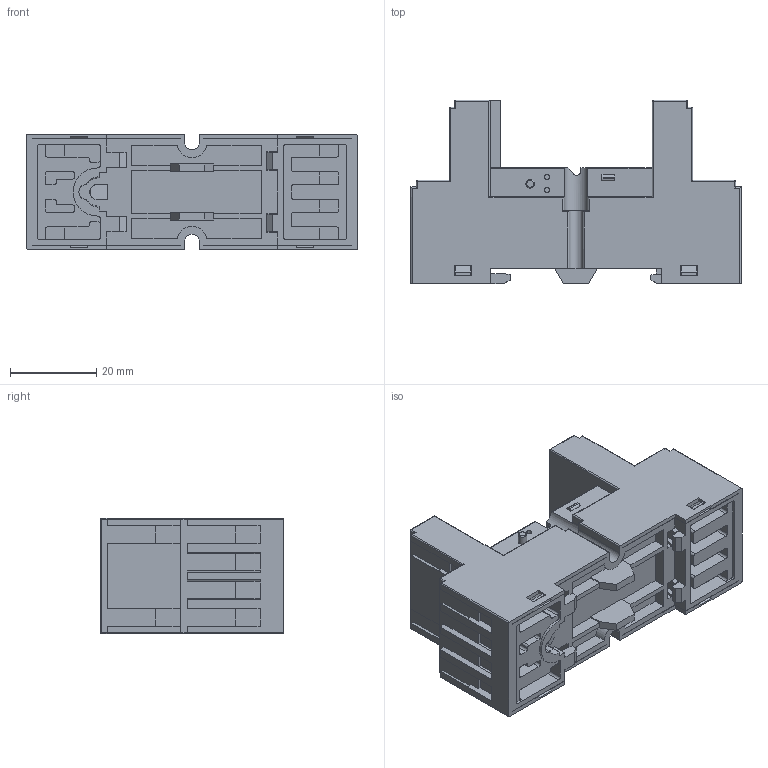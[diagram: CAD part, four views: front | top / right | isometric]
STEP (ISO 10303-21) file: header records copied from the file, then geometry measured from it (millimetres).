
FILE_DESCRIPTION (( 'STEP AP203' ), '1' );
FILE_NAME ('SKB08-E 俋倛.STEP', '2023-01-29T02:53:09', ( '' ), ( '' ), 'SwSTEP 2.0', 'SolidWorks 2018', '' );
FILE_SCHEMA (( 'CONFIG_CONTROL_DESIGN' ));
Length unit declared in the file: millimetre
Products named in the file (1): SKB08-E 俋倛
Bounding box: 76.4 x 42.5 x 26.8 mm (x, y, z)
Volume: 48044.7 mm3; surface area: 18853.9 mm2
Topology: 1 solids, 1 shells, 1124 faces, 3058 edges, 1966 vertices
Faces by surface type: plane 706, cylinder 239, torus 116, cone 53, bspline 10
Entity records: 36666 total; most frequent: CARTESIAN_POINT 8336, ORIENTED_EDGE 6064, DIRECTION 5690, EDGE_CURVE 3032, LINE 2064, VECTOR 2064, VERTEX_POINT 1966, AXIS2_PLACEMENT_3D 1813
